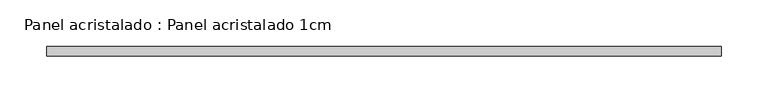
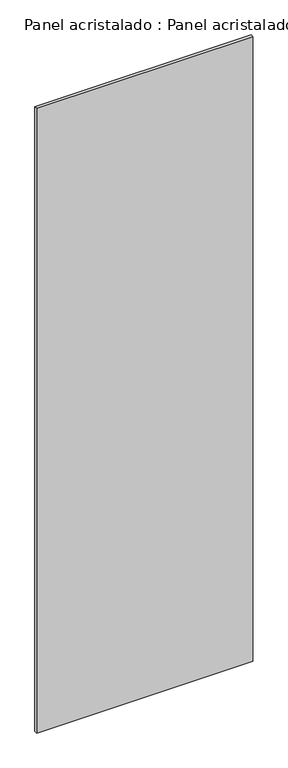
"""IFC4 building model written with IfcOpenShell, lengths in millimetres: plate geometry, Panel acristalado : Panel acristalado 1cm."""

from ifc_helpers import new_model, si_unit, origin, origin_with_axes, place, context, project, spatial, polyline, outline, extrude, source, transform, mapped, element, save


def panel_acristalado_panel_acristalado_1cm_9cf7acdf(model_context):
    return source(origin(), model_context, "Body", "SweptSolid", [
        extrude(outline(polyline([(360.0, 20.0), (-360.0, 20.0), (-360.0, 30.0), (360.0, 30.0), (360.0, 20.0)])), origin_with_axes(), (0.0, 0.0, 1.0), 2200.0),
    ])


if __name__ == "__main__":
    model = new_model("IFC4")
    model_context = context("Model", 3, world=origin())
    ifc_project = project(units=[si_unit("LENGTHUNIT", "METRE", prefix="MILLI")], contexts=[model_context])
    site = spatial("IfcSite", under=ifc_project)
    building = spatial("IfcBuilding", under=site)
    placement = place(None, origin())
    panel_acristalado_panel_acristalado_1cm_shape = panel_acristalado_panel_acristalado_1cm_9cf7acdf(model_context)
    element("IfcPlate", 1, ObjectType="Panel acristalado : Panel acristalado 1cm", at=placement, inside=building, context=model_context, shape_type="MappedRepresentation", body=[
        mapped(panel_acristalado_panel_acristalado_1cm_shape, transform((0.0, 0.0, 0.0), x_axis=(1.0, 0.0, 0.0), y_axis=(0.0, 1.0, 0.0), z_axis=(0.0, 0.0, 1.0))),
    ])
    save(model, "model.ifc")
